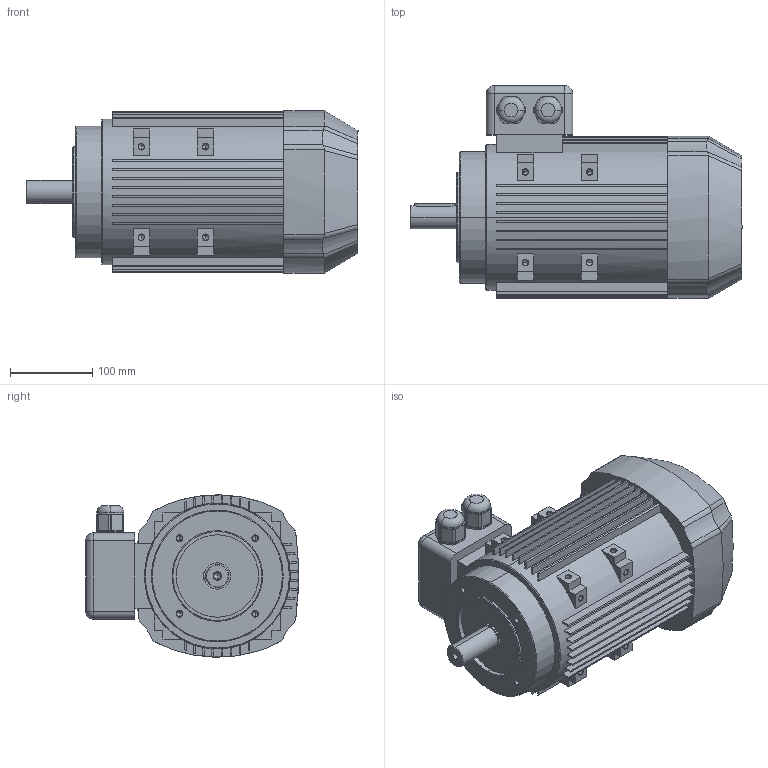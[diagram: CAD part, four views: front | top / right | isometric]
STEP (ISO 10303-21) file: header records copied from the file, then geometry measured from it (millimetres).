
FILE_DESCRIPTION (( 'STEP AP203' ), '1' );
FILE_NAME ('IE2_100L_160-28(B14).STEP', '2023-09-06T12:16:14', ( '' ), ( '' ), 'SwSTEP 2.0', 'SolidWorks 2022', '' );
FILE_SCHEMA (( 'CONFIG_CONTROL_DESIGN' ));
Length unit declared in the file: millimetre
Products named in the file (1): IE2_100L_160-28(B14)
Bounding box: 403 x 258.46 x 197 mm (x, y, z)
Volume: 9801683.7 mm3; surface area: 435626.2 mm2
Topology: 1 solids, 1 shells, 447 faces, 1183 edges, 739 vertices
Faces by surface type: plane 199, cylinder 147, cone 76, bspline 17, torus 4, sphere 4
Entity records: 14029 total; most frequent: CARTESIAN_POINT 2989, DIRECTION 2323, ORIENTED_EDGE 2290, EDGE_CURVE 1145, AXIS2_PLACEMENT_3D 833, VERTEX_POINT 739, LINE 657, VECTOR 657
